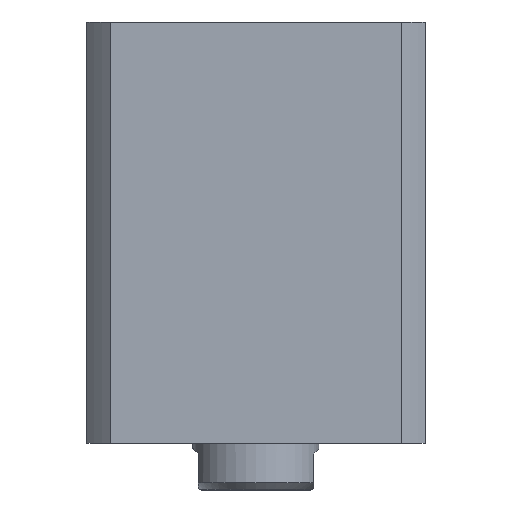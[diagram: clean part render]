
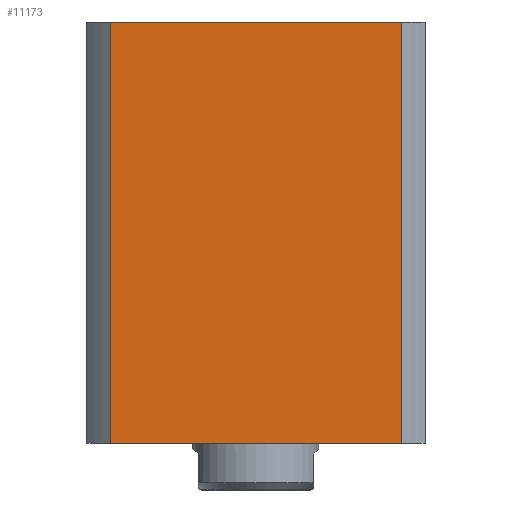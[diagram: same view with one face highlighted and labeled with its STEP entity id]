
A CAD part, front view. The second image highlights one B-rep face of the part: STEP entity #11173.
In plain terms, the highlighted planar face has unit normal (0, -1, 0) as drawn and (0, 1, 0) by its records, which use the part's own axes.
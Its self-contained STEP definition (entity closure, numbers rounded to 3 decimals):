
#353 = DIRECTION ( 'NONE',  ( 0., 0., 1. ) ) ;
#367 = LINE ( 'NONE', #10433, #6827 ) ;
#405 = CARTESIAN_POINT ( 'NONE',  ( -40.435, 47., 0. ) ) ;
#445 = EDGE_CURVE ( 'NONE', #3257, #1971, #13328, .T. ) ;
#1255 = VECTOR ( 'NONE', #353, 1000. ) ;
#1351 = ORIENTED_EDGE ( 'NONE', *, *, #445, .F. ) ;
#1692 = DIRECTION ( 'NONE',  ( 0., -1., 0. ) ) ;
#1770 = ORIENTED_EDGE ( 'NONE', *, *, #13725, .F. ) ;
#1971 = VERTEX_POINT ( 'NONE', #405 ) ;
#2273 = VECTOR ( 'NONE', #3029, 1000. ) ;
#3029 = DIRECTION ( 'NONE',  ( -1., 0., 0. ) ) ;
#3257 = VERTEX_POINT ( 'NONE', #16962 ) ;
#3448 = EDGE_LOOP ( 'NONE', ( #7794, #4573, #1351, #1770 ) ) ;
#4105 = CARTESIAN_POINT ( 'NONE',  ( 40.435, 47., 0. ) ) ;
#4427 = CARTESIAN_POINT ( 'NONE',  ( -47., 47., 0. ) ) ;
#4573 = ORIENTED_EDGE ( 'NONE', *, *, #5102, .T. ) ;
#4917 = LINE ( 'NONE', #8592, #1255 ) ;
#5102 = EDGE_CURVE ( 'NONE', #8868, #1971, #9577, .T. ) ;
#6827 = VECTOR ( 'NONE', #9004, 1000. ) ;
#7089 = CARTESIAN_POINT ( 'NONE',  ( -47., 47., 117. ) ) ;
#7159 = PLANE ( 'NONE',  #15017 ) ;
#7794 = ORIENTED_EDGE ( 'NONE', *, *, #13346, .F. ) ;
#8060 = CARTESIAN_POINT ( 'NONE',  ( 40.435, 47., 117. ) ) ;
#8592 = CARTESIAN_POINT ( 'NONE',  ( 40.435, 47., -5883. ) ) ;
#8868 = VERTEX_POINT ( 'NONE', #4105 ) ;
#9004 = DIRECTION ( 'NONE',  ( -1., 0., 0. ) ) ;
#9577 = LINE ( 'NONE', #4427, #2273 ) ;
#10433 = CARTESIAN_POINT ( 'NONE',  ( -47., 47., 117. ) ) ;
#11173 = ADVANCED_FACE ( 'NONE', ( #16576 ), #7159, .F. ) ;
#11313 = DIRECTION ( 'NONE',  ( 0., 0., -1. ) ) ;
#11422 = VERTEX_POINT ( 'NONE', #8060 ) ;
#12896 = VECTOR ( 'NONE', #14445, 1000. ) ;
#13328 = LINE ( 'NONE', #14524, #12896 ) ;
#13346 = EDGE_CURVE ( 'NONE', #8868, #11422, #4917, .T. ) ;
#13725 = EDGE_CURVE ( 'NONE', #11422, #3257, #367, .T. ) ;
#14445 = DIRECTION ( 'NONE',  ( 0., 0., -1. ) ) ;
#14524 = CARTESIAN_POINT ( 'NONE',  ( -40.435, 47., -5883. ) ) ;
#15017 = AXIS2_PLACEMENT_3D ( 'NONE', #7089, #1692, #11313 ) ;
#16576 = FACE_OUTER_BOUND ( 'NONE', #3448, .T. ) ;
#16962 = CARTESIAN_POINT ( 'NONE',  ( -40.435, 47., 117. ) ) ;
